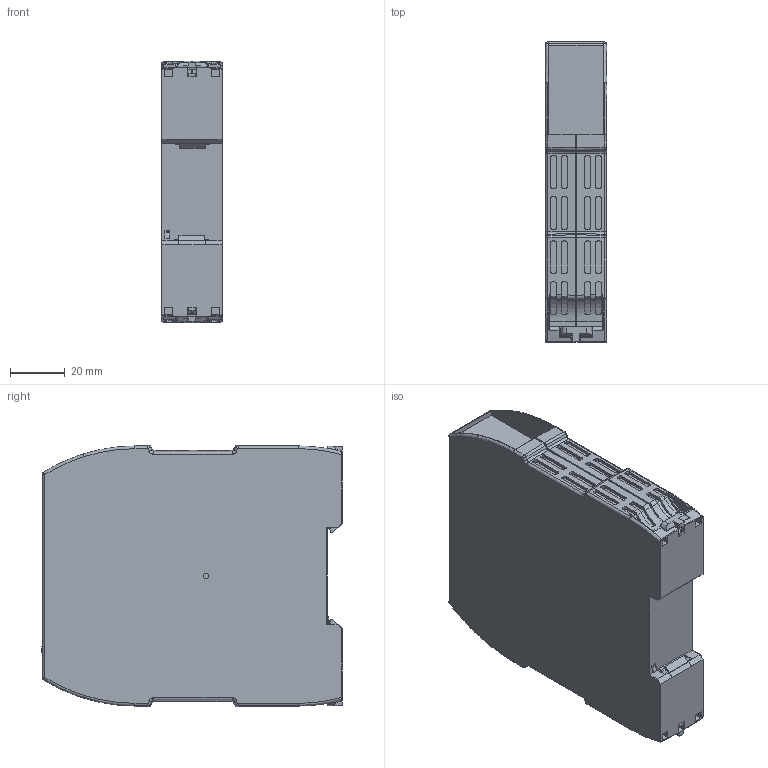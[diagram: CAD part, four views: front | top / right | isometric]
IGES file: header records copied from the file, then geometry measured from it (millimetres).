
Start section:  PTC IGES file: 2023109
Global section: file name: 2023109; native system: Creo Parametric by Parametric Technology Corporation; preprocessor: 2016100; author: merz; organization: Unknown; date: 20160804.095519; units: millimetre
Bounding box: 22.5 x 110.2 x 96 mm (x, y, z)
Surface area: 34085.1 mm2 (no closed solid volume)
Topology: 0 solids, 0 shells, 824 faces, 4506 edges, 4494 vertices
Faces by surface type: bspline 506, revolution 314, extrusion 4
